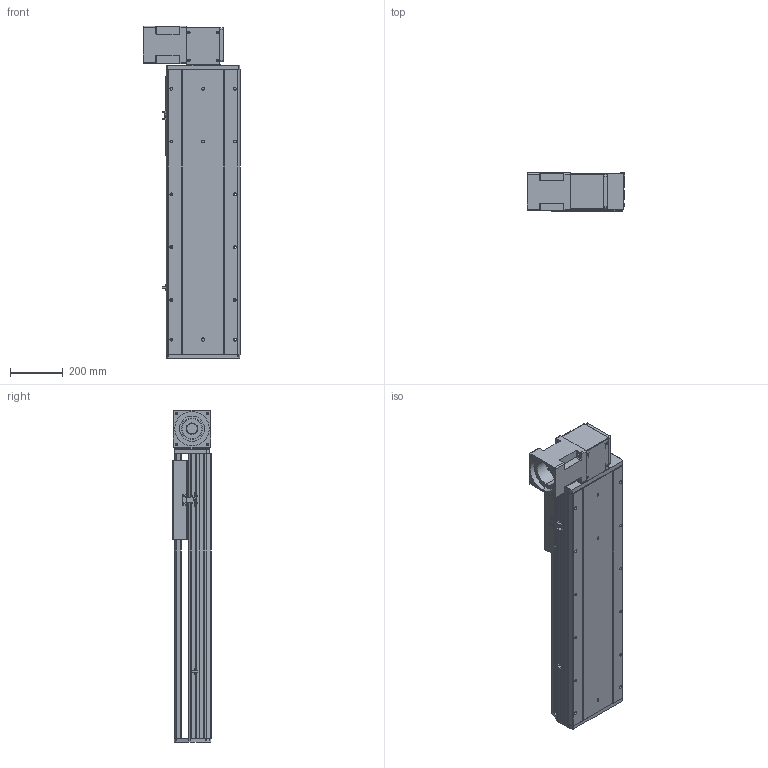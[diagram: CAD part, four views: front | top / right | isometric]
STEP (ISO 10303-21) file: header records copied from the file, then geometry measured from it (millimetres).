
FILE_DESCRIPTION (( 'STEP AP214' ), '1' );
FILE_NAME ('RTB28R-XX-650-BR-M100-XX-C4.STEP', '2025-12-22T01:08:28', ( '' ), ( '' ), 'SwSTEP 2.0', 'SolidWorks 2018', '' );
FILE_SCHEMA (( 'AUTOMOTIVE_DESIGN' ));
Length unit declared in the file: millimetre
Products named in the file (4): RTB28R-XX-650-BR-M100-XX-C4; RTB28S-GY-004^RTB28R-XX-XX-BR-M100-XX-C4; RTB28S-GY-008^RTB28R-XX-XX-BR-M100-XX-C4; RTB28S-GY-011^RTB28R-XX-XX-BR-M100-XX-C4
Assembly tree (3 placements, depth 2):
  RTB28R-XX-650-BR-M100-XX-C4
    RTB28S-GY-011^RTB28R-XX-XX-BR-M100-XX-C4
    RTB28S-GY-004^RTB28R-XX-XX-BR-M100-XX-C4
    RTB28S-GY-008^RTB28R-XX-XX-BR-M100-XX-C4
Bounding box: 370 x 145 x 1257 mm (x, y, z)
Volume: 24103713.7 mm3; surface area: 2363723.3 mm2
Topology: 3 solids, 4 shells, 968 faces, 2550 edges, 1636 vertices
Faces by surface type: plane 452, cylinder 345, bspline 87, cone 80, torus 4
Entity records: 41230 total; most frequent: CARTESIAN_POINT 10945, ORIENTED_EDGE 5036, DIRECTION 4866, EDGE_CURVE 2518, AXIS2_PLACEMENT_3D 1657, VERTEX_POINT 1636, LINE 1552, VECTOR 1552
